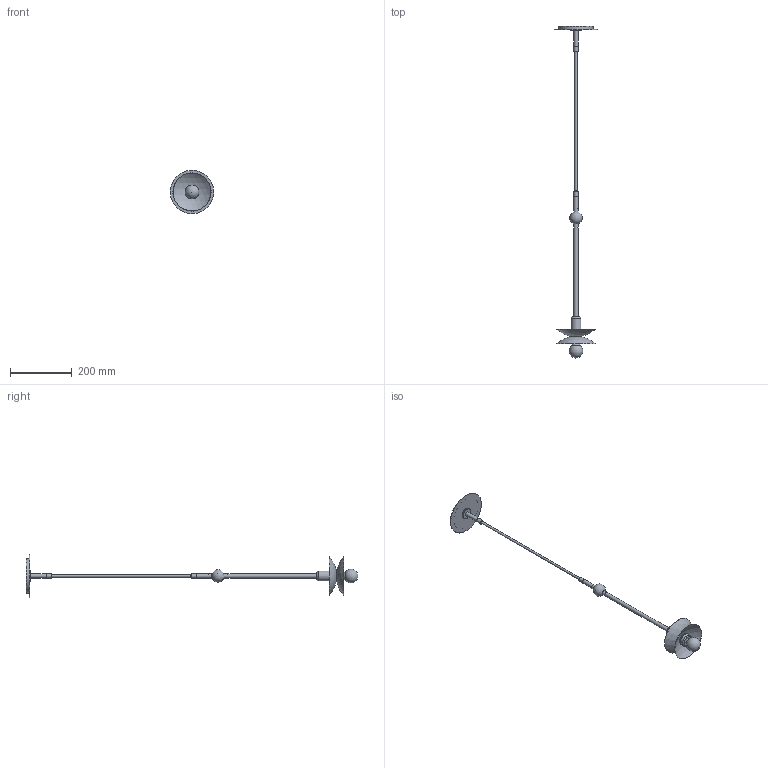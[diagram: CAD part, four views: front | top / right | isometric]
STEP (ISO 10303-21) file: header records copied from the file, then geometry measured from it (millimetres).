
FILE_DESCRIPTION(/* description */ (''),/* implementation_level */ '2;1');
FILE_NAME(/* name */ '260210_B_B768 Babylon Single.stp',/* time_stamp */ '2026-02-10T11:44:40+01:00',/* author */ ('Dominik'),/* organization */ (''),/* preprocessor_version */ 'ST-DEVELOPER v20.1',/* originating_system */ 'Autodesk Inventor 2026',/* authorisation */ '');
FILE_SCHEMA (('AUTOMOTIVE_DESIGN { 1 0 10303 214 3 1 1 }'));
Length unit declared in the file: millimetre
Products named in the file (1): B768 jako część
Bounding box: 139.64 x 1071.9 x 139.64 mm (x, y, z)
Volume: 410698.8 mm3; surface area: 170584.9 mm2
Topology: 17 solids, 17 shells, 80 faces, 128 edges, 82 vertices
Faces by surface type: plane 33, cylinder 20, cone 11, torus 8, sphere 6, bspline 2
Full cylindrical faces by diameter (mm): 7 x1, 10 x2, 12 x1, 13 x5, 17 x1, 28 x1, 29 x2, 32 x1, 34.5 x1, 36 x1, 39.5 x2, 110 x1, 140 x1
Entity records: 2186 total; most frequent: CARTESIAN_POINT 432, DIRECTION 371, ORIENTED_EDGE 250, AXIS2_PLACEMENT_3D 170, EDGE_CURVE 125, STYLED_ITEM 97, CIRCLE 91, EDGE_LOOP 89
